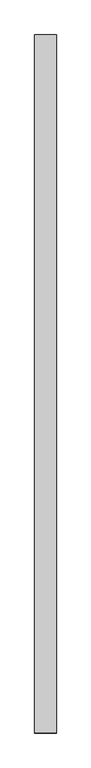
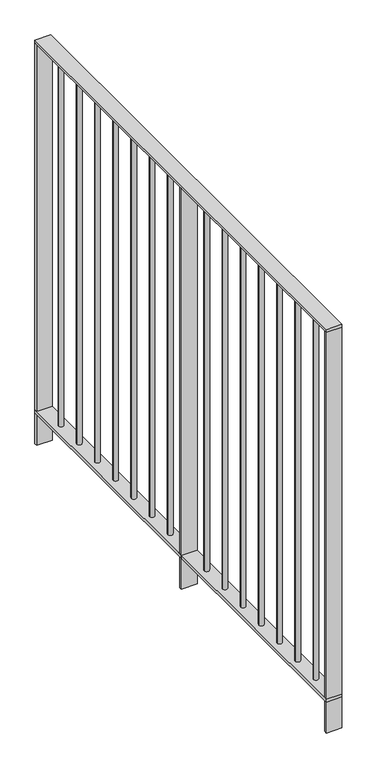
"""IFC4 building model written with IfcOpenShell, lengths in millimetres: railing geometry, BARANDA HIERRO ALTURA 1.20m 1.42."""

from ifc_helpers import new_model, si_unit, point, frame, frame_2d, origin, place, context, project, spatial, polyline, circle_curve, trimmed, segment, composite_curve, outline, extrude, source, transform, mapped, element, save


def railing_fe686932(model_context):
    return source(origin(), model_context, "Body", "SweptSolid", [
        extrude(outline(polyline([(7284.7173693, 23152.2304035), (7240.7173693, 23152.2304035), (7240.7173693, 24572.2304035), (7284.7173693, 24572.2304035), (7284.7173693, 23152.2304035)])), frame((0.0, 0.0, 3402.0), z_axis=(0.0, 0.0, 1.0), x_axis=(1.0, 0.0, 0.0)), (0.0, 0.0, 1.0), 8.0),
        extrude(outline(polyline([(7284.7173693, 23152.2304035), (7240.7173693, 23152.2304035), (7240.7173693, 24572.2304035), (7284.7173693, 24572.2304035), (7284.7173693, 23152.2304035)])), frame((0.0, 0.0, 4502.0), z_axis=(0.0, 0.0, 1.0), x_axis=(1.0, 0.0, 0.0)), (0.0, 0.0, 1.0), 8.0),
        extrude(outline(composite_curve([segment(trimmed(circle_curve(frame_2d((7262.7173693, 24483.4804035)), 7.0), [point((7255.7173693, 24483.4804035))], [point((7269.7173693, 24483.4804035))], False, "CARTESIAN"), True, "CONTINUOUS"), segment(trimmed(circle_curve(frame_2d((7262.7173693, 24483.4804035)), 7.0), [point((7269.7173693, 24483.4804035))], [point((7255.7173693, 24483.4804035))], False, "CARTESIAN"), True, "CONTINUOUS")], self_intersect=False)), frame((0.0, 0.0, 3410.0), z_axis=(0.0, 0.0, 1.0), x_axis=(1.0, 0.0, 0.0)), (0.0, 0.0, 1.0), 1092.0),
        extrude(outline(composite_curve([segment(trimmed(circle_curve(frame_2d((7262.7173693, 24394.7304035)), 7.0), [point((7255.7173693, 24394.7304035))], [point((7269.7173693, 24394.7304035))], False, "CARTESIAN"), True, "CONTINUOUS"), segment(trimmed(circle_curve(frame_2d((7262.7173693, 24394.7304035)), 7.0), [point((7269.7173693, 24394.7304035))], [point((7255.7173693, 24394.7304035))], False, "CARTESIAN"), True, "CONTINUOUS")], self_intersect=False)), frame((0.0, 0.0, 3410.0), z_axis=(0.0, 0.0, 1.0), x_axis=(1.0, 0.0, 0.0)), (0.0, 0.0, 1.0), 1092.0),
        extrude(outline(composite_curve([segment(trimmed(circle_curve(frame_2d((7262.7173693, 24305.9804035)), 7.0), [point((7255.7173693, 24305.9804035))], [point((7269.7173693, 24305.9804035))], False, "CARTESIAN"), True, "CONTINUOUS"), segment(trimmed(circle_curve(frame_2d((7262.7173693, 24305.9804035)), 7.0), [point((7269.7173693, 24305.9804035))], [point((7255.7173693, 24305.9804035))], False, "CARTESIAN"), True, "CONTINUOUS")], self_intersect=False)), frame((0.0, 0.0, 3410.0), z_axis=(0.0, 0.0, 1.0), x_axis=(1.0, 0.0, 0.0)), (0.0, 0.0, 1.0), 1092.0),
        extrude(outline(composite_curve([segment(trimmed(circle_curve(frame_2d((7262.7173693, 24217.2304035)), 7.0), [point((7255.7173693, 24217.2304035))], [point((7269.7173693, 24217.2304035))], False, "CARTESIAN"), True, "CONTINUOUS"), segment(trimmed(circle_curve(frame_2d((7262.7173693, 24217.2304035)), 7.0), [point((7269.7173693, 24217.2304035))], [point((7255.7173693, 24217.2304035))], False, "CARTESIAN"), True, "CONTINUOUS")], self_intersect=False)), frame((0.0, 0.0, 3410.0), z_axis=(0.0, 0.0, 1.0), x_axis=(1.0, 0.0, 0.0)), (0.0, 0.0, 1.0), 1092.0),
        extrude(outline(composite_curve([segment(trimmed(circle_curve(frame_2d((7262.7173693, 24128.4804035)), 7.0), [point((7255.7173693, 24128.4804035))], [point((7269.7173693, 24128.4804035))], False, "CARTESIAN"), True, "CONTINUOUS"), segment(trimmed(circle_curve(frame_2d((7262.7173693, 24128.4804035)), 7.0), [point((7269.7173693, 24128.4804035))], [point((7255.7173693, 24128.4804035))], False, "CARTESIAN"), True, "CONTINUOUS")], self_intersect=False)), frame((0.0, 0.0, 3410.0), z_axis=(0.0, 0.0, 1.0), x_axis=(1.0, 0.0, 0.0)), (0.0, 0.0, 1.0), 1092.0),
        extrude(outline(composite_curve([segment(trimmed(circle_curve(frame_2d((7262.7173693, 24039.7304035)), 7.0), [point((7255.7173693, 24039.7304035))], [point((7269.7173693, 24039.7304035))], False, "CARTESIAN"), True, "CONTINUOUS"), segment(trimmed(circle_curve(frame_2d((7262.7173693, 24039.7304035)), 7.0), [point((7269.7173693, 24039.7304035))], [point((7255.7173693, 24039.7304035))], False, "CARTESIAN"), True, "CONTINUOUS")], self_intersect=False)), frame((0.0, 0.0, 3410.0), z_axis=(0.0, 0.0, 1.0), x_axis=(1.0, 0.0, 0.0)), (0.0, 0.0, 1.0), 1092.0),
        extrude(outline(composite_curve([segment(trimmed(circle_curve(frame_2d((7262.7173693, 23950.9804035)), 7.0), [point((7255.7173693, 23950.9804035))], [point((7269.7173693, 23950.9804035))], False, "CARTESIAN"), True, "CONTINUOUS"), segment(trimmed(circle_curve(frame_2d((7262.7173693, 23950.9804035)), 7.0), [point((7269.7173693, 23950.9804035))], [point((7255.7173693, 23950.9804035))], False, "CARTESIAN"), True, "CONTINUOUS")], self_intersect=False)), frame((0.0, 0.0, 3410.0), z_axis=(0.0, 0.0, 1.0), x_axis=(1.0, 0.0, 0.0)), (0.0, 0.0, 1.0), 1092.0),
        extrude(outline(polyline([(7284.7173693, 23858.2304035), (7240.7173693, 23858.2304035), (7240.7173693, 23866.2304035), (7284.7173693, 23866.2304035), (7284.7173693, 23858.2304035)])), frame((0.0, 0.0, 3310.0), z_axis=(0.0, 0.0, 1.0), x_axis=(1.0, 0.0, 0.0)), (0.0, 0.0, 1.0), 1192.0),
        extrude(outline(composite_curve([segment(trimmed(circle_curve(frame_2d((7262.7173693, 23773.4804035)), 7.0), [point((7255.7173693, 23773.4804035))], [point((7269.7173693, 23773.4804035))], False, "CARTESIAN"), True, "CONTINUOUS"), segment(trimmed(circle_curve(frame_2d((7262.7173693, 23773.4804035)), 7.0), [point((7269.7173693, 23773.4804035))], [point((7255.7173693, 23773.4804035))], False, "CARTESIAN"), True, "CONTINUOUS")], self_intersect=False)), frame((0.0, 0.0, 3410.0), z_axis=(0.0, 0.0, 1.0), x_axis=(1.0, 0.0, 0.0)), (0.0, 0.0, 1.0), 1092.0),
        extrude(outline(composite_curve([segment(trimmed(circle_curve(frame_2d((7262.7173693, 23684.7304035)), 7.0), [point((7255.7173693, 23684.7304035))], [point((7269.7173693, 23684.7304035))], False, "CARTESIAN"), True, "CONTINUOUS"), segment(trimmed(circle_curve(frame_2d((7262.7173693, 23684.7304035)), 7.0), [point((7269.7173693, 23684.7304035))], [point((7255.7173693, 23684.7304035))], False, "CARTESIAN"), True, "CONTINUOUS")], self_intersect=False)), frame((0.0, 0.0, 3410.0), z_axis=(0.0, 0.0, 1.0), x_axis=(1.0, 0.0, 0.0)), (0.0, 0.0, 1.0), 1092.0),
        extrude(outline(composite_curve([segment(trimmed(circle_curve(frame_2d((7262.7173693, 23595.9804035)), 7.0), [point((7255.7173693, 23595.9804035))], [point((7269.7173693, 23595.9804035))], False, "CARTESIAN"), True, "CONTINUOUS"), segment(trimmed(circle_curve(frame_2d((7262.7173693, 23595.9804035)), 7.0), [point((7269.7173693, 23595.9804035))], [point((7255.7173693, 23595.9804035))], False, "CARTESIAN"), True, "CONTINUOUS")], self_intersect=False)), frame((0.0, 0.0, 3410.0), z_axis=(0.0, 0.0, 1.0), x_axis=(1.0, 0.0, 0.0)), (0.0, 0.0, 1.0), 1092.0),
        extrude(outline(composite_curve([segment(trimmed(circle_curve(frame_2d((7262.7173693, 23507.2304035)), 7.0), [point((7255.7173693, 23507.2304035))], [point((7269.7173693, 23507.2304035))], False, "CARTESIAN"), True, "CONTINUOUS"), segment(trimmed(circle_curve(frame_2d((7262.7173693, 23507.2304035)), 7.0), [point((7269.7173693, 23507.2304035))], [point((7255.7173693, 23507.2304035))], False, "CARTESIAN"), True, "CONTINUOUS")], self_intersect=False)), frame((0.0, 0.0, 3410.0), z_axis=(0.0, 0.0, 1.0), x_axis=(1.0, 0.0, 0.0)), (0.0, 0.0, 1.0), 1092.0),
        extrude(outline(composite_curve([segment(trimmed(circle_curve(frame_2d((7262.7173693, 23418.4804035)), 7.0), [point((7255.7173693, 23418.4804035))], [point((7269.7173693, 23418.4804035))], False, "CARTESIAN"), True, "CONTINUOUS"), segment(trimmed(circle_curve(frame_2d((7262.7173693, 23418.4804035)), 7.0), [point((7269.7173693, 23418.4804035))], [point((7255.7173693, 23418.4804035))], False, "CARTESIAN"), True, "CONTINUOUS")], self_intersect=False)), frame((0.0, 0.0, 3410.0), z_axis=(0.0, 0.0, 1.0), x_axis=(1.0, 0.0, 0.0)), (0.0, 0.0, 1.0), 1092.0),
        extrude(outline(composite_curve([segment(trimmed(circle_curve(frame_2d((7262.7173693, 23329.7304035)), 7.0), [point((7255.7173693, 23329.7304035))], [point((7269.7173693, 23329.7304035))], False, "CARTESIAN"), True, "CONTINUOUS"), segment(trimmed(circle_curve(frame_2d((7262.7173693, 23329.7304035)), 7.0), [point((7269.7173693, 23329.7304035))], [point((7255.7173693, 23329.7304035))], False, "CARTESIAN"), True, "CONTINUOUS")], self_intersect=False)), frame((0.0, 0.0, 3410.0), z_axis=(0.0, 0.0, 1.0), x_axis=(1.0, 0.0, 0.0)), (0.0, 0.0, 1.0), 1092.0),
        extrude(outline(composite_curve([segment(trimmed(circle_curve(frame_2d((7262.7173693, 23240.9804035)), 7.0), [point((7255.7173693, 23240.9804035))], [point((7269.7173693, 23240.9804035))], False, "CARTESIAN"), True, "CONTINUOUS"), segment(trimmed(circle_curve(frame_2d((7262.7173693, 23240.9804035)), 7.0), [point((7269.7173693, 23240.9804035))], [point((7255.7173693, 23240.9804035))], False, "CARTESIAN"), True, "CONTINUOUS")], self_intersect=False)), frame((0.0, 0.0, 3410.0), z_axis=(0.0, 0.0, 1.0), x_axis=(1.0, 0.0, 0.0)), (0.0, 0.0, 1.0), 1092.0),
        extrude(outline(polyline([(7284.7173693, 24564.2304035), (7240.7173693, 24564.2304035), (7240.7173693, 24572.2304035), (7284.7173693, 24572.2304035), (7284.7173693, 24564.2304035)])), frame((0.0, 0.0, 3310.0), z_axis=(0.0, 0.0, 1.0), x_axis=(1.0, 0.0, 0.0)), (0.0, 0.0, 1.0), 1192.0),
        extrude(outline(polyline([(7284.7173693, 23152.2304035), (7240.7173693, 23152.2304035), (7240.7173693, 23160.2304035), (7284.7173693, 23160.2304035), (7284.7173693, 23152.2304035)])), frame((0.0, 0.0, 3310.0), z_axis=(0.0, 0.0, 1.0), x_axis=(1.0, 0.0, 0.0)), (0.0, 0.0, 1.0), 1192.0),
    ])


if __name__ == "__main__":
    model = new_model("IFC4")
    model_context = context("Model", 3, world=origin())
    ifc_project = project(units=[si_unit("LENGTHUNIT", "METRE", prefix="MILLI")], contexts=[model_context])
    site = spatial("IfcSite", under=ifc_project)
    building = spatial("IfcBuilding", under=site)
    placement = place(None, origin())
    railing_shape = railing_fe686932(model_context)
    element("IfcRailing", 1, ObjectType="BARANDA HIERRO ALTURA 1.20m 1.42", at=placement, inside=building, context=model_context, shape_type="MappedRepresentation", body=[
        mapped(railing_shape, transform((0.0, 0.0, 0.0), x_axis=(1.0, 0.0, 0.0), y_axis=(0.0, 1.0, 0.0), z_axis=(0.0, 0.0, 1.0))),
    ])
    save(model, "model.ifc")
